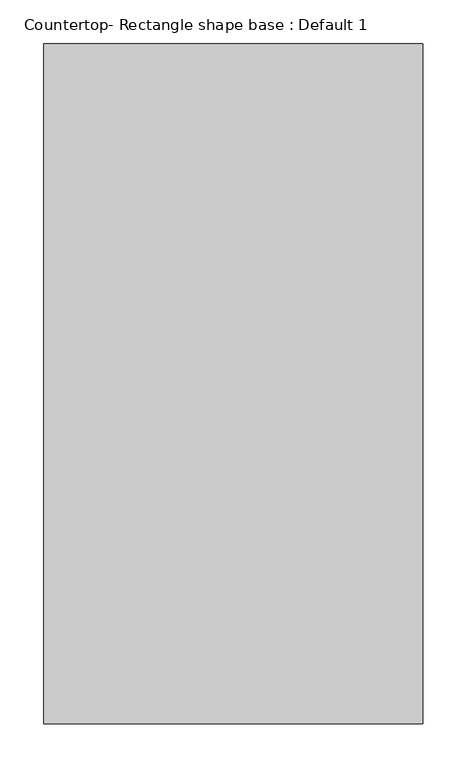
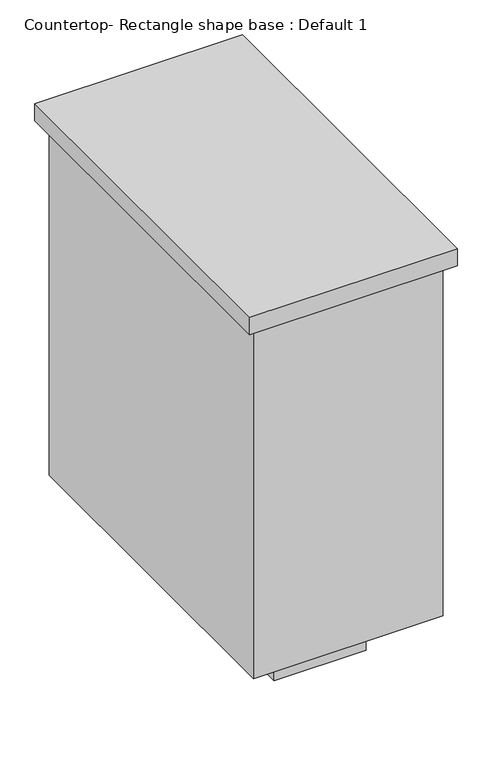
"""IFC4 building model written with IfcOpenShell, lengths in millimetres: proxy geometry, Countertop- Rectangle shape base : Default 1."""

from ifc_helpers import new_model, si_unit, frame, origin, origin_with_axes, place, context, project, spatial, polyline, outline, extrude, source, transform, mapped, element, save


def countertop_rectangle_shape_base_default_1_01a669eb(model_context):
    return source(origin(), model_context, "Body", "SweptSolid", [
        extrude(outline(polyline([(546.1, -6.35), (546.1, 768.35), (977.9, 768.35), (977.9, -6.35), (546.1, -6.35)])), frame((0.0, 0.0, 876.3), z_axis=(0.0, 0.0, 1.0), x_axis=(1.0, 0.0, 0.0)), (0.0, 0.0, 1.0), 38.1),
        extrude(outline(polyline([(958.85, 749.3), (958.85, 12.7), (565.15, 12.7), (565.15, 749.3), (958.85, 749.3)])), frame((0.0, 0.0, 101.6), z_axis=(0.0, 0.0, 1.0), x_axis=(1.0, 0.0, 0.0)), (0.0, 0.0, 1.0), 774.7),
        extrude(outline(polyline([(857.25, 647.7), (857.25, 114.3), (666.75, 114.3), (666.75, 647.7), (857.25, 647.7)])), origin_with_axes(), (0.0, 0.0, 1.0), 101.6),
    ])


if __name__ == "__main__":
    model = new_model("IFC4")
    model_context = context("Model", 3, world=origin())
    ifc_project = project(units=[si_unit("LENGTHUNIT", "METRE", prefix="MILLI")], contexts=[model_context])
    site = spatial("IfcSite", under=ifc_project)
    building = spatial("IfcBuilding", under=site)
    placement = place(None, origin())
    countertop_rectangle_shape_base_default_1_shape = countertop_rectangle_shape_base_default_1_01a669eb(model_context)
    element("IfcBuildingElementProxy", 1, Name="Countertop- Rectangle shape base : Default 1", ObjectType="Countertop- Rectangle shape base : Default 1", at=placement, inside=building, context=model_context, shape_type="MappedRepresentation", body=[
        mapped(countertop_rectangle_shape_base_default_1_shape, transform((0.0, 0.0, 0.0), x_axis=(1.0, 0.0, 0.0), y_axis=(0.0, 1.0, 0.0), z_axis=(0.0, 0.0, 1.0))),
    ])
    save(model, "model.ifc")
